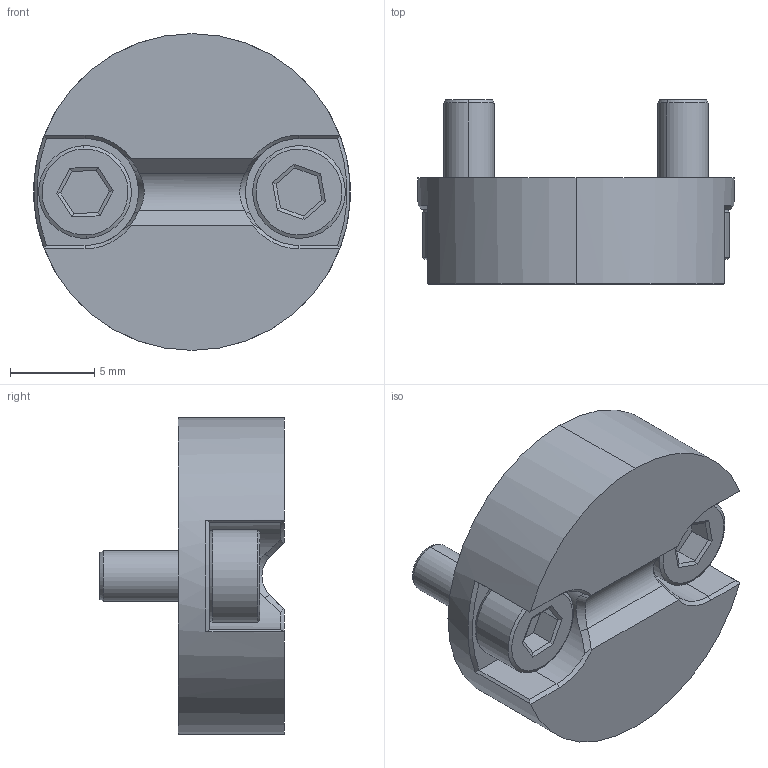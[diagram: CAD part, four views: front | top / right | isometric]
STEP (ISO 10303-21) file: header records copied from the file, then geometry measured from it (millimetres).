
FILE_DESCRIPTION (( 'STEP AP203' ), '1' );
FILE_NAME ('SRTMC-13.STEP', '2012-09-12T23:15:29', ( '' ), ( '' ), 'SwSTEP 2.0', 'SolidWorks 2010', '' );
FILE_SCHEMA (( 'CONFIG_CONTROL_DESIGN' ));
Length unit declared in the file: millimetre
Products named in the file (3): SRTMC-13_SHCS; SRTMC-13
Assembly tree (3 placements, depth 2):
  SRTMC-13
    SRTMC-13_SHCS  x2
    SRTMC-13
Bounding box: 18.8 x 10.95 x 18.8 mm (x, y, z)
Volume: 1592.9 mm3; surface area: 1329.3 mm2
Topology: 3 solids, 3 shells, 92 faces, 214 edges, 132 vertices
Faces by surface type: plane 51, cone 18, cylinder 17, bspline 6
Entity records: 2361 total; most frequent: CARTESIAN_POINT 536, ORIENTED_EDGE 320, DIRECTION 298, EDGE_CURVE 160, AXIS2_PLACEMENT_3D 108, VERTEX_POINT 100, LINE 82, VECTOR 82
